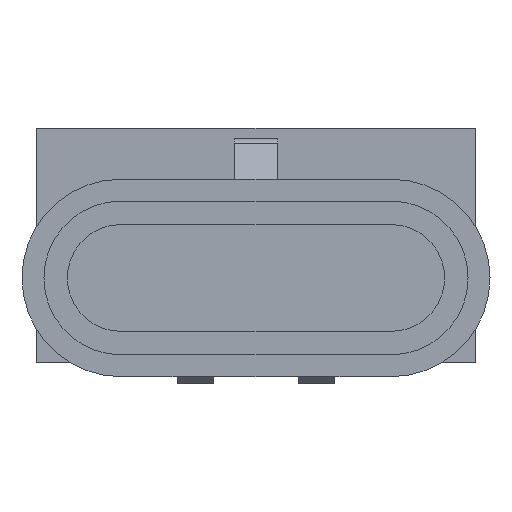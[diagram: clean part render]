
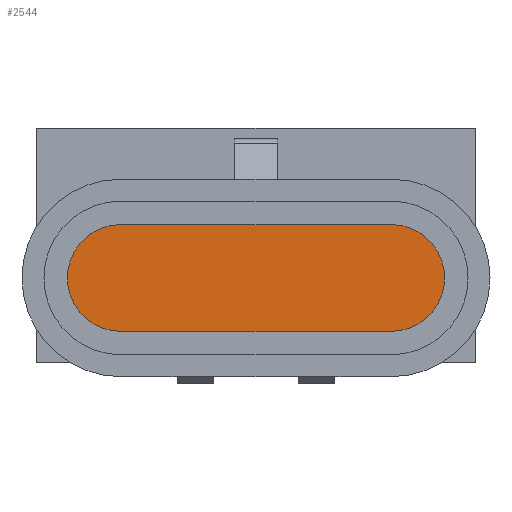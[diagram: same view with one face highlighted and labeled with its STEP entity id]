
A CAD part, front view. The second image highlights one B-rep face of the part: STEP entity #2544.
In plain terms, the highlighted planar face has unit normal (0, -1, 0) as drawn and (0, 0, -1) by its records, which use the part's own axes.
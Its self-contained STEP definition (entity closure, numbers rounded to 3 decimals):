
#153=LINE('',#3993,#379);
#157=LINE('',#4005,#383);
#379=VECTOR('',#3231,18.5);
#383=VECTOR('',#3243,18.5);
#532=PLANE('',#2750);
#670=FACE_OUTER_BOUND('',#829,.T.);
#829=EDGE_LOOP('',(#1929,#1930,#1931,#1932));
#977=CIRCLE('',#2745,3.65);
#979=CIRCLE('',#2749,3.65);
#1158=VERTEX_POINT('',#3990);
#1159=VERTEX_POINT('',#3992);
#1161=VERTEX_POINT('',#3998);
#1163=VERTEX_POINT('',#4004);
#1437=EDGE_CURVE('',#1159,#1158,#153,.T.);
#1440=EDGE_CURVE('',#1161,#1159,#977,.T.);
#1443=EDGE_CURVE('',#1163,#1161,#157,.T.);
#1446=EDGE_CURVE('',#1158,#1163,#979,.T.);
#1929=ORIENTED_EDGE('',*,*,#1440,.T.);
#1930=ORIENTED_EDGE('',*,*,#1437,.T.);
#1931=ORIENTED_EDGE('',*,*,#1446,.T.);
#1932=ORIENTED_EDGE('',*,*,#1443,.T.);
#2544=ADVANCED_FACE('',(#670),#532,.F.);
#2745=AXIS2_PLACEMENT_3D('',#3999,#3237,#3238);
#2749=AXIS2_PLACEMENT_3D('',#4009,#3249,#3250);
#2750=AXIS2_PLACEMENT_3D('',#4010,#3251,#3252);
#3231=DIRECTION('',(1.,0.,0.));
#3237=DIRECTION('center_axis',(0.,0.,-1.));
#3238=DIRECTION('ref_axis',(1.,0.,0.));
#3243=DIRECTION('',(-1.,0.,0.));
#3249=DIRECTION('center_axis',(0.,0.,-1.));
#3250=DIRECTION('ref_axis',(1.,0.,0.));
#3251=DIRECTION('center_axis',(0.,0.,1.));
#3252=DIRECTION('ref_axis',(1.,0.,0.));
#3990=CARTESIAN_POINT('',(9.25,-2.1,-59.5));
#3992=CARTESIAN_POINT('',(-9.25,-2.1,-59.5));
#3993=CARTESIAN_POINT('',(-9.25,-2.1,-59.5));
#3998=CARTESIAN_POINT('',(-9.25,-9.4,-59.5));
#3999=CARTESIAN_POINT('Origin',(-9.25,-5.75,-59.5));
#4004=CARTESIAN_POINT('',(9.25,-9.4,-59.5));
#4005=CARTESIAN_POINT('',(9.25,-9.4,-59.5));
#4009=CARTESIAN_POINT('Origin',(9.25,-5.75,-59.5));
#4010=CARTESIAN_POINT('Origin',(-9.25,-5.75,-59.5));
